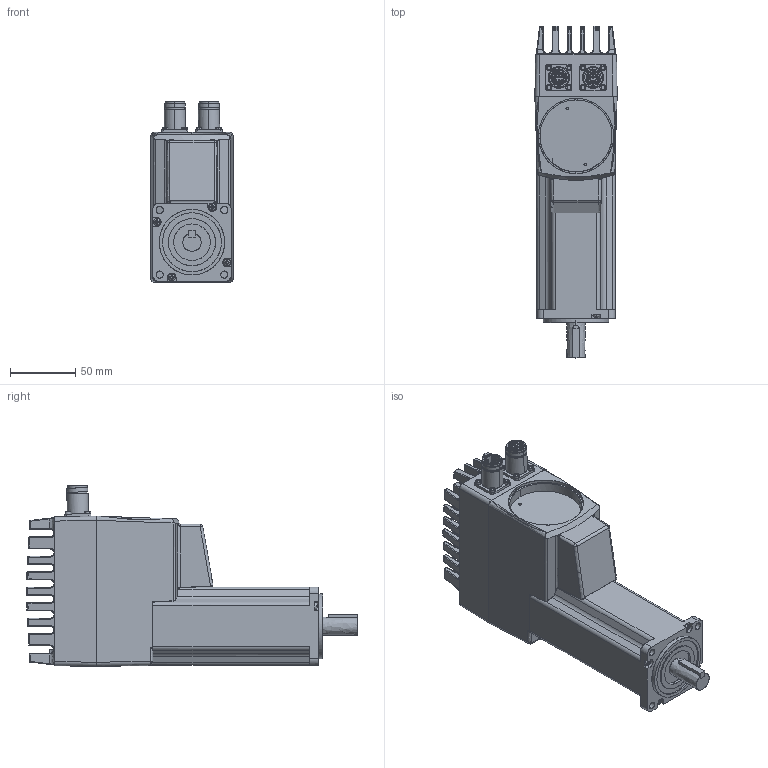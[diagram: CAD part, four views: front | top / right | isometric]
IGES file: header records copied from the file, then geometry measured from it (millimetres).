
Start section: Comment
Global section: file name: MAC400-D5.igs; native system:  By UGS Corp.; preprocessor: XPlus GENERIC/IGES 3.0; author: Author; organization: Title; date: 20091201.143118; units: millimetre
Bounding box: 63.02 x 254 x 138.45 mm (x, y, z)
Surface area: 139692 mm2 (no closed solid volume)
Topology: 0 solids, 0 shells, 2840 faces, 14177 edges, 13761 vertices
Faces by surface type: bspline 2840
